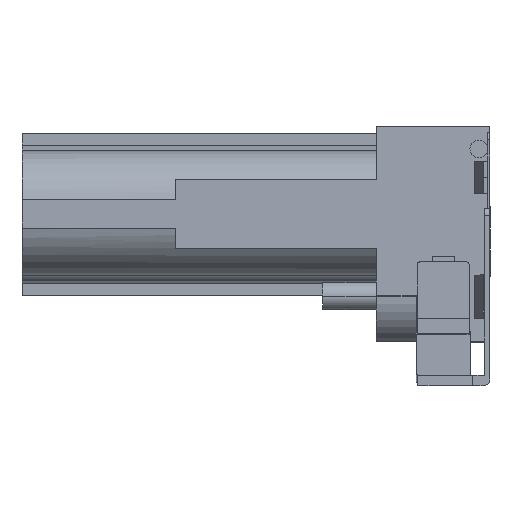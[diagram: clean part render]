
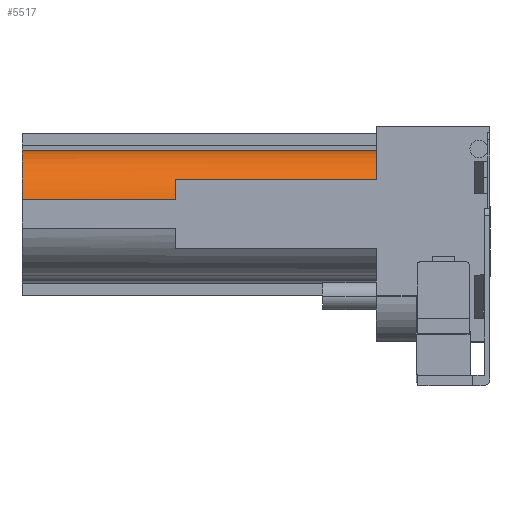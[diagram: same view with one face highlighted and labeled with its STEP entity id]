
A CAD part, front view. The second image highlights one B-rep face of the part: STEP entity #5517.
In plain terms, the highlighted cylindrical face has radius 23 mm (diameter 46 mm), a partial arc.
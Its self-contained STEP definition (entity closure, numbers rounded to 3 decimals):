
#491 = CARTESIAN_POINT ( 'NONE',  ( -41.25, 593.573, 12.812 ) ) ;
#492 = DIRECTION ( 'NONE',  ( -1., 0., 0. ) ) ;
#493 = DIRECTION ( 'NONE',  ( 0., -1., 0. ) ) ;
#667 = CARTESIAN_POINT ( 'NONE',  ( -41.25, 574.332, 25.413 ) ) ;
#678 = CARTESIAN_POINT ( 'NONE',  ( -114.25, 571.187, 18.09 ) ) ;
#730 = CARTESIAN_POINT ( 'NONE',  ( -169.95, 593.754, 35.812 ) ) ;
#731 = CARTESIAN_POINT ( 'NONE',  ( -41.25, 593.754, 35.812 ) ) ;
#754 = CARTESIAN_POINT ( 'NONE',  ( -169.95, 571.187, 18.09 ) ) ;
#812 = CARTESIAN_POINT ( 'NONE',  ( -114.25, 574.332, 25.413 ) ) ;
#1064 = AXIS2_PLACEMENT_3D ( 'NONE', #491, #492, #493 ) ;
#1921 = FACE_OUTER_BOUND ( 'NONE', #4324, .T. ) ;
#1922 = CYLINDRICAL_SURFACE ( 'NONE', #1064, 23. ) ;
#3165 = EDGE_CURVE ( 'NONE', #6425, #6291, #4999, .T. ) ;
#3166 = EDGE_CURVE ( 'NONE', #6367, #6291, #4998, .T. ) ;
#3167 = EDGE_CURVE ( 'NONE', #6343, #6367, #5002, .T. ) ;
#3168 = EDGE_CURVE ( 'NONE', #6344, #6343, #5001, .T. ) ;
#3169 = EDGE_CURVE ( 'NONE', #6344, #6280, #5005, .T. ) ;
#3170 = EDGE_CURVE ( 'NONE', #6425, #6280, #5004, .T. ) ;
#3684 = AXIS2_PLACEMENT_3D ( 'NONE', #6063, #6062, #6061 ) ;
#3685 = AXIS2_PLACEMENT_3D ( 'NONE', #6057, #6056, #6055 ) ;
#3686 = AXIS2_PLACEMENT_3D ( 'NONE', #6052, #6051, #6049 ) ;
#4008 = ORIENTED_EDGE ( 'NONE', *, *, #3170, .T. ) ;
#4009 = ORIENTED_EDGE ( 'NONE', *, *, #3169, .F. ) ;
#4010 = ORIENTED_EDGE ( 'NONE', *, *, #3168, .T. ) ;
#4011 = ORIENTED_EDGE ( 'NONE', *, *, #3167, .T. ) ;
#4012 = ORIENTED_EDGE ( 'NONE', *, *, #3166, .T. ) ;
#4013 = ORIENTED_EDGE ( 'NONE', *, *, #3165, .F. ) ;
#4324 = EDGE_LOOP ( 'NONE', ( #4008, #4009, #4010, #4011, #4012, #4013 ) ) ;
#4998 = LINE ( 'NONE', #6060, #5000 ) ;
#4999 = CIRCLE ( 'NONE', #3684, 23. ) ;
#5000 = VECTOR ( 'NONE', #6059, 1000. ) ;
#5001 = LINE ( 'NONE', #6054, #5003 ) ;
#5002 = CIRCLE ( 'NONE', #3685, 23. ) ;
#5003 = VECTOR ( 'NONE', #6053, 1000. ) ;
#5004 = LINE ( 'NONE', #6048, #5006 ) ;
#5005 = CIRCLE ( 'NONE', #3686, 23. ) ;
#5006 = VECTOR ( 'NONE', #6047, 1000. ) ;
#5517 = ADVANCED_FACE ( 'NONE', ( #1921 ), #1922, .T. ) ;
#6047 = DIRECTION ( 'NONE',  ( 1., 0., 0. ) ) ;
#6048 = CARTESIAN_POINT ( 'NONE',  ( -114.25, 574.332, 25.413 ) ) ;
#6049 = DIRECTION ( 'NONE',  ( 0., -1., 0. ) ) ;
#6051 = DIRECTION ( 'NONE',  ( 1., 0., 0. ) ) ;
#6052 = CARTESIAN_POINT ( 'NONE',  ( -41.25, 593.573, 12.812 ) ) ;
#6053 = DIRECTION ( 'NONE',  ( -1., 0., 0. ) ) ;
#6054 = CARTESIAN_POINT ( 'NONE',  ( -41.25, 593.754, 35.812 ) ) ;
#6055 = DIRECTION ( 'NONE',  ( 0., -1., 0. ) ) ;
#6056 = DIRECTION ( 'NONE',  ( 1., 0., 0. ) ) ;
#6057 = CARTESIAN_POINT ( 'NONE',  ( -169.95, 593.573, 12.812 ) ) ;
#6059 = DIRECTION ( 'NONE',  ( 1., 0., 0. ) ) ;
#6060 = CARTESIAN_POINT ( 'NONE',  ( -41.25, 571.187, 18.09 ) ) ;
#6061 = DIRECTION ( 'NONE',  ( 0., -1., 0. ) ) ;
#6062 = DIRECTION ( 'NONE',  ( 1., 0., 0. ) ) ;
#6063 = CARTESIAN_POINT ( 'NONE',  ( -114.25, 593.573, 12.812 ) ) ;
#6280 = VERTEX_POINT ( 'NONE', #667 ) ;
#6291 = VERTEX_POINT ( 'NONE', #678 ) ;
#6343 = VERTEX_POINT ( 'NONE', #730 ) ;
#6344 = VERTEX_POINT ( 'NONE', #731 ) ;
#6367 = VERTEX_POINT ( 'NONE', #754 ) ;
#6425 = VERTEX_POINT ( 'NONE', #812 ) ;
